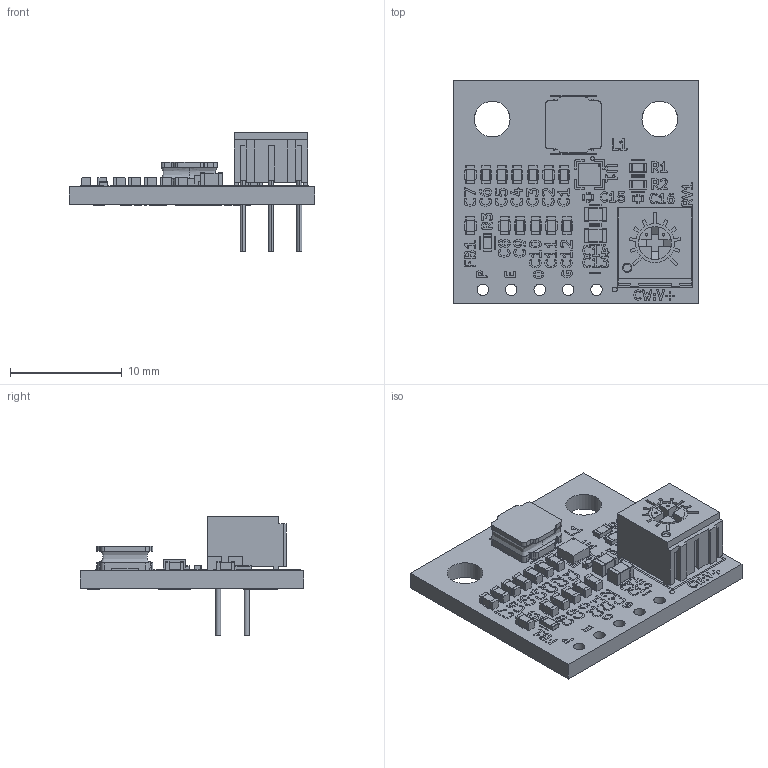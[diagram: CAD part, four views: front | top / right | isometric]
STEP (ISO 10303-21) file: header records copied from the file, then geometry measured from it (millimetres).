
FILE_DESCRIPTION(('FreeCAD Model'),'2;1');
FILE_NAME('C:/ws/KiCad/LowNoiseBuck_tps62913_module/tps62913-module/hardware/step/tps62913-module.step', '2021-09-11T13:21:27',('Author'),(''), 'Open CASCADE STEP processor 7.3','FreeCAD','Unknown');
FILE_SCHEMA(('AUTOMOTIVE_DESIGN { 1 0 10303 214 1 1 1 1 }'));
Length unit declared in the file: millimetre
Products named in the file (32): tps62913-module; Board_Geoms_9331; Local_CS_9331; Pcb_9331; PCB_Sketch_9331; botSilks_ce31; topSilks_ff7; Step_Models_9331; Top_9331; U1_7-VQFN-HR_613C5A48; RV1_3362P-1_613C78EE; C1_C_0603_1608Metric_613C58A9; C2_C_0603_1608Metric_613C58BA; C3_C_0603_1608Metric_613C58CB; C4_C_0603_1608Metric_613C58DC; C5_C_0603_1608Metric_613C58ED; C6_C_0603_1608Metric_613C58FE; C7_C_0603_1608Metric_613C590F; C8_C_0603_1608Metric_613C5920; C9_C_0603_1608Metric_613C5931; C10_C_0603_1608Metric_613C5942; C11_C_0603_1608Metric_613C5953; C12_C_0603_1608Metric_613C5964; C13_C_0805_2012Metric_613C5975; C14_C_0805_2012Metric_613C5986; C15_C_0402_1005Metric_613C5997; FB1_C_0603_1608Metric_613C59B9; L1_inductor_5x5_613C59EA; R1_R_0603_1608Metric_613C59FB; R2_R_0603_1608Metric_613C5A0C; R3_R_0603_1608Metric_613C5A1D; C16_C_0402_1005Metric_613C6D97
Assembly tree (31 placements, depth 4):
  tps62913-module
    Board_Geoms_9331
      Local_CS_9331
      Pcb_9331
      PCB_Sketch_9331
      botSilks_ce31
      topSilks_ff7
    Step_Models_9331
      Top_9331
        U1_7-VQFN-HR_613C5A48
        RV1_3362P-1_613C78EE
        C1_C_0603_1608Metric_613C58A9
        C2_C_0603_1608Metric_613C58BA
        C3_C_0603_1608Metric_613C58CB
        C4_C_0603_1608Metric_613C58DC
        C5_C_0603_1608Metric_613C58ED
        C6_C_0603_1608Metric_613C58FE
        C7_C_0603_1608Metric_613C590F
        C8_C_0603_1608Metric_613C5920
        C9_C_0603_1608Metric_613C5931
        C10_C_0603_1608Metric_613C5942
        C11_C_0603_1608Metric_613C5953
        C12_C_0603_1608Metric_613C5964
        C13_C_0805_2012Metric_613C5975
        C14_C_0805_2012Metric_613C5986
        C15_C_0402_1005Metric_613C5997
        FB1_C_0603_1608Metric_613C59B9
        L1_inductor_5x5_613C59EA
        R1_R_0603_1608Metric_613C59FB
        R2_R_0603_1608Metric_613C5A0C
        R3_R_0603_1608Metric_613C5A1D
        C16_C_0402_1005Metric_613C6D97
Bounding box: 22 x 20 x 10.72 mm (x, y, z)
Volume: 931.8 mm3; surface area: 1747.8 mm2
Topology: 42 solids, 185 shells, 1104 faces, 18867 edges, 18032 vertices
Faces by surface type: plane 766, cylinder 334, cone 2, bspline 2
Full cylindrical faces by diameter (mm): 0.813 x3, 1.02 x5, 3.2 x2
Entity records: 171254 total; most frequent: CARTESIAN_POINT 39034, DIRECTION 21785, ORIENTED_EDGE 21365, EDGE_CURVE 18861, LINE 18171, VECTOR 18171, VERTEX_POINT 18024, AXIS2_PLACEMENT_3D 1807
